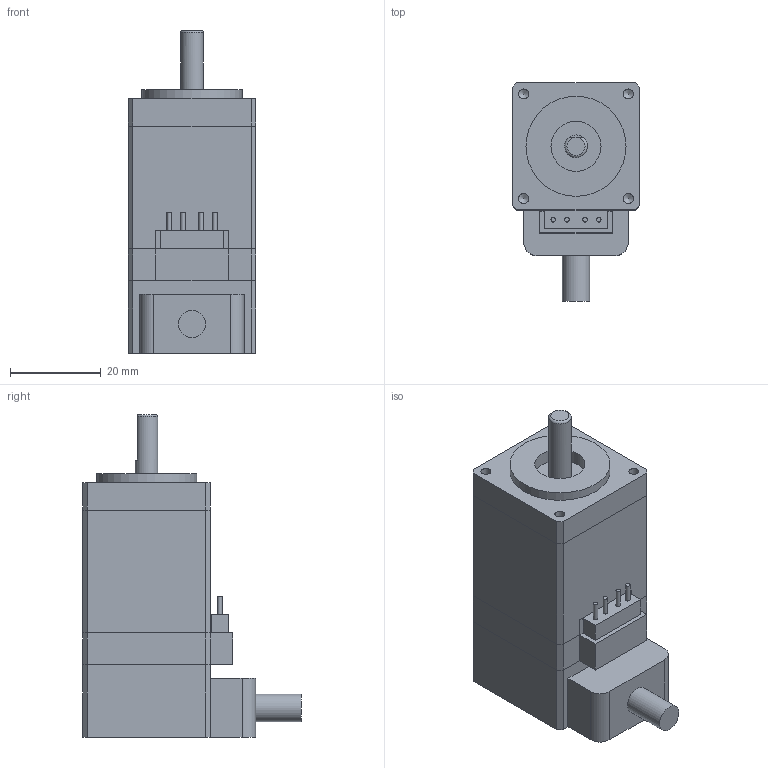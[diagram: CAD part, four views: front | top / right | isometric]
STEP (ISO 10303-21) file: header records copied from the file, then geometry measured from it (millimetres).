
FILE_DESCRIPTION(/* description */ (''),/* implementation_level */ '2;1');
FILE_NAME(/* name */ 'STP-28D2-Y17-37950.stp',/* time_stamp */ '2018-09-03T14:47:31+08:00',/* author */ (''),/* organization */ (''),/* preprocessor_version */ 'ST-DEVELOPER v11',/* originating_system */ 'SIEMENS UGS NX 6.0',/* authorisation */ '');
FILE_SCHEMA (('CONFIG_CONTROL_DESIGN'));
Length unit declared in the file: millimetre
Products named in the file (1): STP-28D2-Y17-37950
Bounding box: 28 x 48 x 71 mm (x, y, z)
Volume: 48519.4 mm3; surface area: 14319.4 mm2
Topology: 4 solids, 4 shells, 85 faces, 205 edges, 136 vertices
Faces by surface type: plane 66, cylinder 14, cone 4, torus 1
Full cylindrical faces by diameter (mm): 1 x4, 2.2 x4, 5 x1, 6 x1, 11 x1, 22 x1
Entity records: 2385 total; most frequent: CARTESIAN_POINT 405, DIRECTION 379, ORIENTED_EDGE 358, EDGE_CURVE 179, LINE 147, VECTOR 147, VERTEX_POINT 130, AXIS2_PLACEMENT_3D 116
